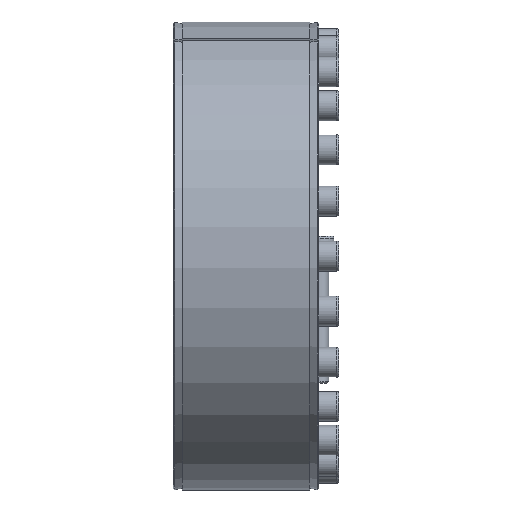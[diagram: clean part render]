
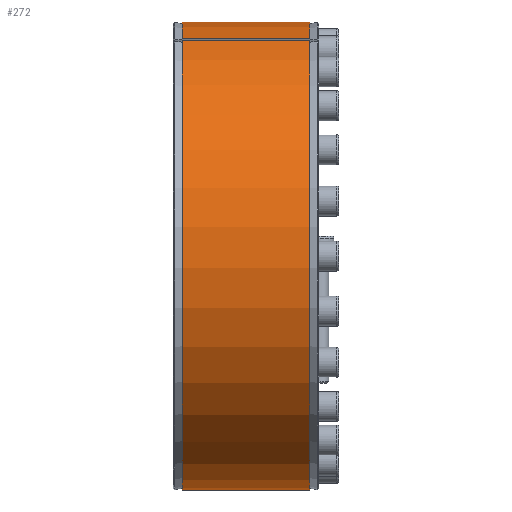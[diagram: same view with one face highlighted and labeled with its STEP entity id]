
A CAD part, left-side view. The second image highlights one B-rep face of the part: STEP entity #272.
In plain terms, the highlighted cylindrical face has radius 257.5 mm (diameter 515 mm), a partial arc.
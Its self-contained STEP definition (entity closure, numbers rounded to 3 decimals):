
#272 = ADVANCED_FACE( '', ( #726 ), #727, .T. );
#726 = FACE_OUTER_BOUND( '', #1298, .T. );
#727 = CYLINDRICAL_SURFACE( '', #1299, 257.5 );
#1298 = EDGE_LOOP( '', ( #2112, #2113, #2114, #2115 ) );
#1299 = AXIS2_PLACEMENT_3D( '', #2116, #2117, #2118 );
#2112 = ORIENTED_EDGE( '', *, *, #2496, .T. );
#2113 = ORIENTED_EDGE( '', *, *, #2529, .T. );
#2114 = ORIENTED_EDGE( '', *, *, #2711, .F. );
#2115 = ORIENTED_EDGE( '', *, *, #2712, .T. );
#2116 = CARTESIAN_POINT( '', ( 0., -60., 0. ) );
#2117 = DIRECTION( '', ( 0., 1., 0. ) );
#2118 = DIRECTION( '', ( 0., 0., -1. ) );
#2496 = EDGE_CURVE( '', #2904, #2902, #2905, .T. );
#2529 = EDGE_CURVE( '', #2902, #2960, #2962, .T. );
#2711 = EDGE_CURVE( '', #3264, #2960, #3265, .T. );
#2712 = EDGE_CURVE( '', #3264, #2904, #3266, .F. );
#2902 = VERTEX_POINT( '', #3565 );
#2904 = VERTEX_POINT( '', #3568 );
#2905 = CIRCLE( '', #3569, 257.5 );
#2960 = VERTEX_POINT( '', #3653 );
#2962 = LINE( '', #3656, #3657 );
#3264 = VERTEX_POINT( '', #3997 );
#3265 = CIRCLE( '', #3998, 257.5 );
#3266 = LINE( '', #3999, #4000 );
#3565 = CARTESIAN_POINT( '', ( -95.763, 150., 239.031 ) );
#3568 = CARTESIAN_POINT( '', ( -101.306, 150., 236.735 ) );
#3569 = AXIS2_PLACEMENT_3D( '', #4195, #4196, #4197 );
#3653 = CARTESIAN_POINT( '', ( -95.763, 10., 239.031 ) );
#3656 = CARTESIAN_POINT( '', ( -95.763, -60., 239.031 ) );
#3657 = VECTOR( '', #4237, 1000. );
#3997 = CARTESIAN_POINT( '', ( -101.306, 10., 236.735 ) );
#3998 = AXIS2_PLACEMENT_3D( '', #4594, #4595, #4596 );
#3999 = CARTESIAN_POINT( '', ( -101.306, -60., 236.735 ) );
#4000 = VECTOR( '', #4597, 1000. );
#4195 = CARTESIAN_POINT( '', ( 0., 150., 0. ) );
#4196 = DIRECTION( '', ( 0., -1., 0. ) );
#4197 = DIRECTION( '', ( 0., 0., -1. ) );
#4237 = DIRECTION( '', ( 0., -1., 0. ) );
#4594 = CARTESIAN_POINT( '', ( 0., 10., 0. ) );
#4595 = DIRECTION( '', ( 0., -1., 0. ) );
#4596 = DIRECTION( '', ( 0., 0., -1. ) );
#4597 = DIRECTION( '', ( 0., -1., 0. ) );
